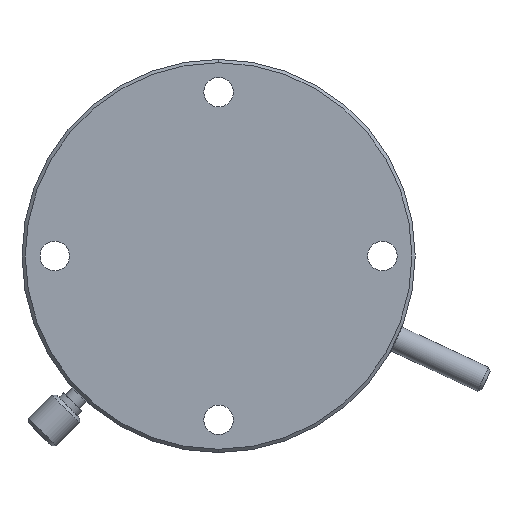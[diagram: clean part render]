
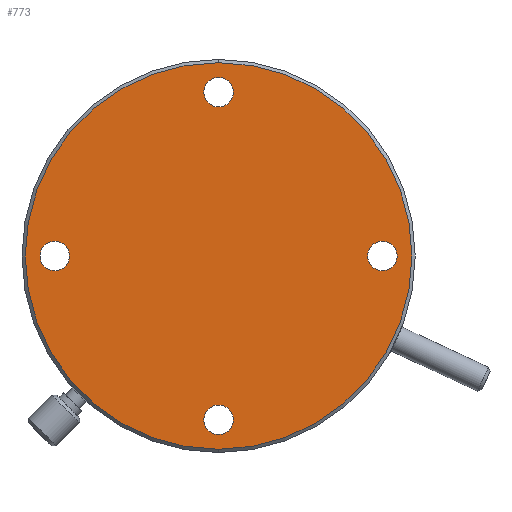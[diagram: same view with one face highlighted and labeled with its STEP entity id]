
A CAD part, front view. The second image highlights one B-rep face of the part: STEP entity #773.
In plain terms, the highlighted planar face has unit normal (0, -1, 0).
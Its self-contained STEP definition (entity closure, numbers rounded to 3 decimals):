
#132 = EDGE_CURVE ( 'NONE', #343, #344, #1558, .T. ) ;
#343 = VERTEX_POINT ( 'NONE', #1679 ) ;
#344 = VERTEX_POINT ( 'NONE', #1678 ) ;
#374 = EDGE_CURVE ( 'NONE', #375, #376, #1802, .T. ) ;
#375 = VERTEX_POINT ( 'NONE', #1798 ) ;
#376 = VERTEX_POINT ( 'NONE', #1797 ) ;
#514 = VERTEX_POINT ( 'NONE', #2251 ) ;
#518 = VERTEX_POINT ( 'NONE', #2250 ) ;
#520 = EDGE_CURVE ( 'NONE', #514, #518, #2247, .T. ) ;
#535 = VERTEX_POINT ( 'NONE', #2192 ) ;
#544 = EDGE_CURVE ( 'NONE', #545, #546, #2159, .T. ) ;
#545 = VERTEX_POINT ( 'NONE', #2154 ) ;
#546 = VERTEX_POINT ( 'NONE', #2153 ) ;
#591 = EDGE_CURVE ( 'NONE', #535, #664, #2224, .T. ) ;
#664 = VERTEX_POINT ( 'NONE', #2351 ) ;
#707 = ORIENTED_EDGE ( 'NONE', *, *, #132, .T. ) ;
#708 = EDGE_LOOP ( 'NONE', ( #709, #967 ) ) ;
#709 = ORIENTED_EDGE ( 'NONE', *, *, #710, .T. ) ;
#710 = EDGE_CURVE ( 'NONE', #664, #535, #2437, .T. ) ;
#712 = EDGE_CURVE ( 'NONE', #518, #514, #2524, .T. ) ;
#748 = EDGE_LOOP ( 'NONE', ( #755, #760 ) ) ;
#752 = ORIENTED_EDGE ( 'NONE', *, *, #712, .T. ) ;
#755 = ORIENTED_EDGE ( 'NONE', *, *, #966, .T. ) ;
#760 = ORIENTED_EDGE ( 'NONE', *, *, #544, .T. ) ;
#769 = ORIENTED_EDGE ( 'NONE', *, *, #520, .T. ) ;
#771 = EDGE_LOOP ( 'NONE', ( #774, #776 ) ) ;
#773 = ADVANCED_FACE ( 'NONE', ( #2848, #2847, #2846, #2845, #2844 ), #2832, .F. ) ;
#774 = ORIENTED_EDGE ( 'NONE', *, *, #775, .T. ) ;
#775 = EDGE_CURVE ( 'NONE', #376, #375, #2827, .T. ) ;
#776 = ORIENTED_EDGE ( 'NONE', *, *, #374, .T. ) ;
#777 = EDGE_LOOP ( 'NONE', ( #778, #707 ) ) ;
#778 = ORIENTED_EDGE ( 'NONE', *, *, #779, .T. ) ;
#779 = EDGE_CURVE ( 'NONE', #344, #343, #2822, .T. ) ;
#817 = EDGE_LOOP ( 'NONE', ( #752, #769 ) ) ;
#966 = EDGE_CURVE ( 'NONE', #546, #545, #3064, .T. ) ;
#967 = ORIENTED_EDGE ( 'NONE', *, *, #591, .T. ) ;
#1554 = DIRECTION ( 'NONE',  ( 0., 0., 1. ) ) ;
#1555 = DIRECTION ( 'NONE',  ( 0., 1., 0. ) ) ;
#1556 = CARTESIAN_POINT ( 'NONE',  ( 0., 0., 25. ) ) ;
#1557 = AXIS2_PLACEMENT_3D ( 'NONE', #1556, #1555, #1554 ) ;
#1558 = CIRCLE ( 'NONE', #1557, 2.25 ) ;
#1678 = CARTESIAN_POINT ( 'NONE',  ( 0., 0., 27.25 ) ) ;
#1679 = CARTESIAN_POINT ( 'NONE',  ( 0., 0., 22.75 ) ) ;
#1797 = CARTESIAN_POINT ( 'NONE',  ( 0., 0., -22.75 ) ) ;
#1798 = CARTESIAN_POINT ( 'NONE',  ( 0., 0., -27.25 ) ) ;
#1799 = DIRECTION ( 'NONE',  ( 0., 0., 1. ) ) ;
#1800 = DIRECTION ( 'NONE',  ( 0., 1., 0. ) ) ;
#1801 = AXIS2_PLACEMENT_3D ( 'NONE', #1807, #1800, #1799 ) ;
#1802 = CIRCLE ( 'NONE', #1801, 2.25 ) ;
#1807 = CARTESIAN_POINT ( 'NONE',  ( 0., 0., -25. ) ) ;
#2153 = CARTESIAN_POINT ( 'NONE',  ( 25., 0., 2.25 ) ) ;
#2154 = CARTESIAN_POINT ( 'NONE',  ( 25., 0., -2.25 ) ) ;
#2155 = DIRECTION ( 'NONE',  ( 0., 0., 1. ) ) ;
#2156 = DIRECTION ( 'NONE',  ( 0., 1., 0. ) ) ;
#2157 = CARTESIAN_POINT ( 'NONE',  ( 25., 0., 0. ) ) ;
#2158 = AXIS2_PLACEMENT_3D ( 'NONE', #2157, #2156, #2155 ) ;
#2159 = CIRCLE ( 'NONE', #2158, 2.25 ) ;
#2192 = CARTESIAN_POINT ( 'NONE',  ( -25., 0., -2.25 ) ) ;
#2214 = DIRECTION ( 'NONE',  ( 0., 0., -1. ) ) ;
#2220 = DIRECTION ( 'NONE',  ( 0., 0., 1. ) ) ;
#2221 = DIRECTION ( 'NONE',  ( 0., 1., 0. ) ) ;
#2222 = CARTESIAN_POINT ( 'NONE',  ( -25., 0., 0. ) ) ;
#2223 = AXIS2_PLACEMENT_3D ( 'NONE', #2222, #2221, #2220 ) ;
#2224 = CIRCLE ( 'NONE', #2223, 2.25 ) ;
#2244 = DIRECTION ( 'NONE',  ( 0., -1., 0. ) ) ;
#2245 = CARTESIAN_POINT ( 'NONE',  ( 0., 0., 0. ) ) ;
#2246 = AXIS2_PLACEMENT_3D ( 'NONE', #2245, #2244, #2214 ) ;
#2247 = CIRCLE ( 'NONE', #2246, 29.5 ) ;
#2250 = CARTESIAN_POINT ( 'NONE',  ( 0., 0., 29.5 ) ) ;
#2251 = CARTESIAN_POINT ( 'NONE',  ( 0., 0., -29.5 ) ) ;
#2351 = CARTESIAN_POINT ( 'NONE',  ( -25., 0., 2.25 ) ) ;
#2433 = DIRECTION ( 'NONE',  ( 0., 0., 1. ) ) ;
#2434 = DIRECTION ( 'NONE',  ( 0., 1., 0. ) ) ;
#2435 = CARTESIAN_POINT ( 'NONE',  ( -25., 0., 0. ) ) ;
#2436 = AXIS2_PLACEMENT_3D ( 'NONE', #2435, #2434, #2433 ) ;
#2437 = CIRCLE ( 'NONE', #2436, 2.25 ) ;
#2520 = DIRECTION ( 'NONE',  ( 0., 0., -1. ) ) ;
#2521 = DIRECTION ( 'NONE',  ( 0., -1., 0. ) ) ;
#2522 = CARTESIAN_POINT ( 'NONE',  ( 0., 0., 0. ) ) ;
#2523 = AXIS2_PLACEMENT_3D ( 'NONE', #2522, #2521, #2520 ) ;
#2524 = CIRCLE ( 'NONE', #2523, 29.5 ) ;
#2818 = DIRECTION ( 'NONE',  ( 0., 0., 1. ) ) ;
#2819 = DIRECTION ( 'NONE',  ( 0., 1., 0. ) ) ;
#2820 = CARTESIAN_POINT ( 'NONE',  ( 0., 0., 25. ) ) ;
#2821 = AXIS2_PLACEMENT_3D ( 'NONE', #2820, #2819, #2818 ) ;
#2822 = CIRCLE ( 'NONE', #2821, 2.25 ) ;
#2823 = DIRECTION ( 'NONE',  ( 0., 0., 1. ) ) ;
#2824 = DIRECTION ( 'NONE',  ( 0., 1., 0. ) ) ;
#2825 = CARTESIAN_POINT ( 'NONE',  ( 0., 0., -25. ) ) ;
#2826 = AXIS2_PLACEMENT_3D ( 'NONE', #2825, #2824, #2823 ) ;
#2827 = CIRCLE ( 'NONE', #2826, 2.25 ) ;
#2828 = DIRECTION ( 'NONE',  ( 0., 0., 1. ) ) ;
#2829 = DIRECTION ( 'NONE',  ( 0., 1., 0. ) ) ;
#2830 = CARTESIAN_POINT ( 'NONE',  ( 0., 0., 0. ) ) ;
#2831 = AXIS2_PLACEMENT_3D ( 'NONE', #2830, #2829, #2828 ) ;
#2832 = PLANE ( 'NONE',  #2831 ) ;
#2844 = FACE_OUTER_BOUND ( 'NONE', #817, .T. ) ;
#2845 = FACE_BOUND ( 'NONE', #748, .T. ) ;
#2846 = FACE_BOUND ( 'NONE', #708, .T. ) ;
#2847 = FACE_BOUND ( 'NONE', #777, .T. ) ;
#2848 = FACE_BOUND ( 'NONE', #771, .T. ) ;
#3060 = DIRECTION ( 'NONE',  ( 0., 0., 1. ) ) ;
#3061 = DIRECTION ( 'NONE',  ( 0., 1., 0. ) ) ;
#3062 = CARTESIAN_POINT ( 'NONE',  ( 25., 0., 0. ) ) ;
#3063 = AXIS2_PLACEMENT_3D ( 'NONE', #3062, #3061, #3060 ) ;
#3064 = CIRCLE ( 'NONE', #3063, 2.25 ) ;
